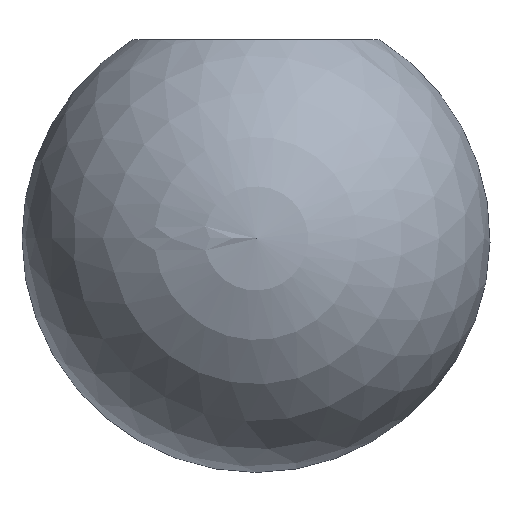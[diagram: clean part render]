
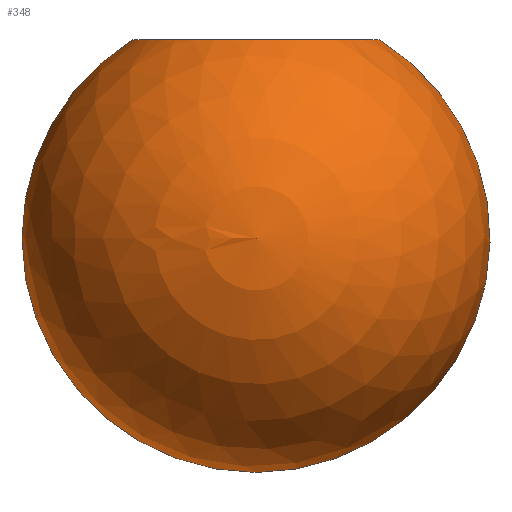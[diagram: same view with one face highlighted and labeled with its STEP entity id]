
A CAD part, left-side view. The second image highlights one B-rep face of the part: STEP entity #348.
In plain terms, the highlighted spherical face has radius 20 mm.
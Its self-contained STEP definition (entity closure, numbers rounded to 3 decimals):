
#26 = CARTESIAN_POINT ( 'NONE',  ( 0., 10.536, 0. ) ) ;
#35 = CIRCLE ( 'NONE', #354, 20. ) ;
#39 = ORIENTED_EDGE ( 'NONE', *, *, #172, .F. ) ;
#46 = AXIS2_PLACEMENT_3D ( 'NONE', #192, #467, #335 ) ;
#104 = ORIENTED_EDGE ( 'NONE', *, *, #259, .T. ) ;
#114 = EDGE_CURVE ( 'NONE', #237, #180, #35, .T. ) ;
#130 = EDGE_LOOP ( 'NONE', ( #173, #104, #39 ) ) ;
#138 = DIRECTION ( 'NONE',  ( 0., -1., 0. ) ) ;
#158 = SPHERICAL_SURFACE ( 'NONE', #191, 20. ) ;
#171 = CARTESIAN_POINT ( 'NONE',  ( 0., 0., -17. ) ) ;
#172 = EDGE_CURVE ( 'NONE', #180, #300, #232, .T. ) ;
#173 = ORIENTED_EDGE ( 'NONE', *, *, #114, .F. ) ;
#180 = VERTEX_POINT ( 'NONE', #26 ) ;
#191 = AXIS2_PLACEMENT_3D ( 'NONE', #171, #511, #515 ) ;
#192 = CARTESIAN_POINT ( 'NONE',  ( 0., 0., 0. ) ) ;
#226 = CARTESIAN_POINT ( 'NONE',  ( 0., -10.536, 0. ) ) ;
#232 = CIRCLE ( 'NONE', #46, 10.536 ) ;
#237 = VERTEX_POINT ( 'NONE', #561 ) ;
#259 = EDGE_CURVE ( 'NONE', #237, #300, #412, .T. ) ;
#300 = VERTEX_POINT ( 'NONE', #226 ) ;
#335 = DIRECTION ( 'NONE',  ( 1., 0., 0. ) ) ;
#348 = ADVANCED_FACE ( 'NONE', ( #368 ), #158, .T. ) ;
#354 = AXIS2_PLACEMENT_3D ( 'NONE', #440, #395, #523 ) ;
#368 = FACE_OUTER_BOUND ( 'NONE', #130, .T. ) ;
#386 = AXIS2_PLACEMENT_3D ( 'NONE', #439, #392, #138 ) ;
#392 = DIRECTION ( 'NONE',  ( -1., 0., 0. ) ) ;
#395 = DIRECTION ( 'NONE',  ( 1., 0., 0. ) ) ;
#412 = CIRCLE ( 'NONE', #386, 20. ) ;
#439 = CARTESIAN_POINT ( 'NONE',  ( 0., 0., -17. ) ) ;
#440 = CARTESIAN_POINT ( 'NONE',  ( 0., 0., -17. ) ) ;
#467 = DIRECTION ( 'NONE',  ( 0., 0., 1. ) ) ;
#511 = DIRECTION ( 'NONE',  ( -1., 0., 0. ) ) ;
#515 = DIRECTION ( 'NONE',  ( 0., 1., 0. ) ) ;
#523 = DIRECTION ( 'NONE',  ( 0., 0., -1. ) ) ;
#561 = CARTESIAN_POINT ( 'NONE',  ( 0., 0., -37. ) ) ;
